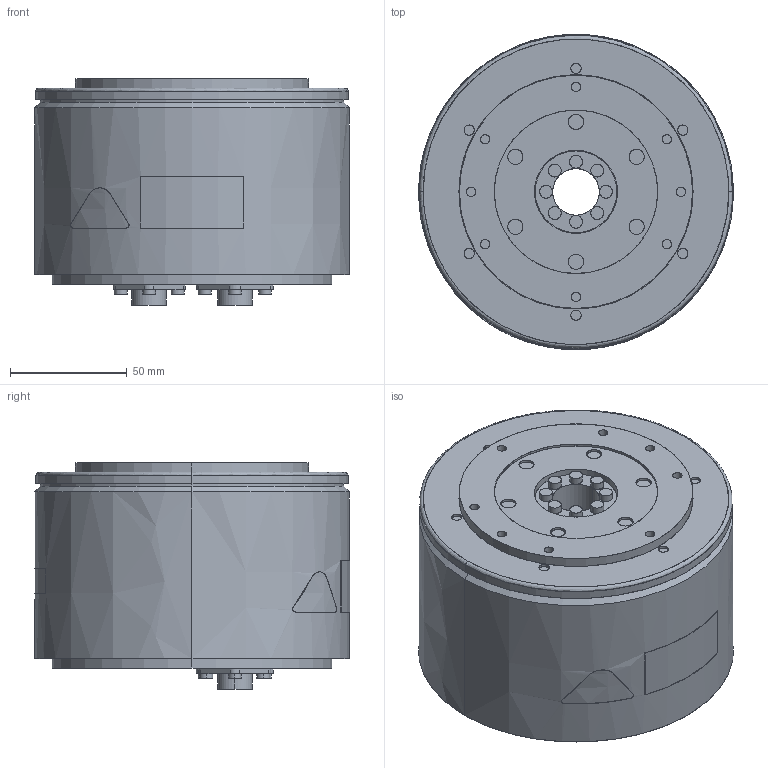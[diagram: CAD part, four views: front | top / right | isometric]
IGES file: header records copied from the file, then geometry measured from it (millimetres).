
Start section: SolidWorks IGES file using analytic representation for surfaces
Bounding box: 135 x 135.2 x 97.1 mm (x, y, z)
Surface area: 76375.6 mm2 (no closed solid volume)
Topology: 0 solids, 0 shells, 323 faces, 6598 edges, 6598 vertices
Faces by surface type: revolution 184, bspline 139
